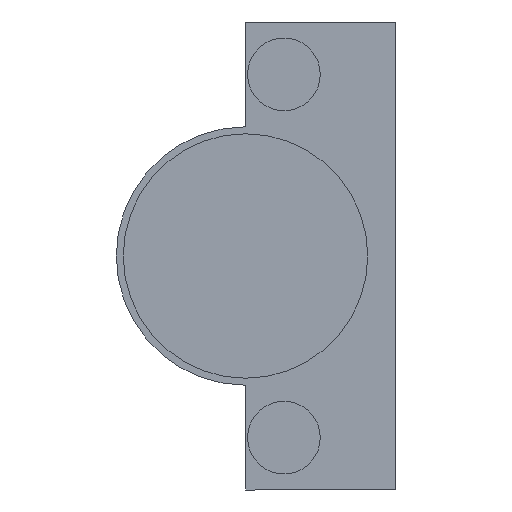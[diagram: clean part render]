
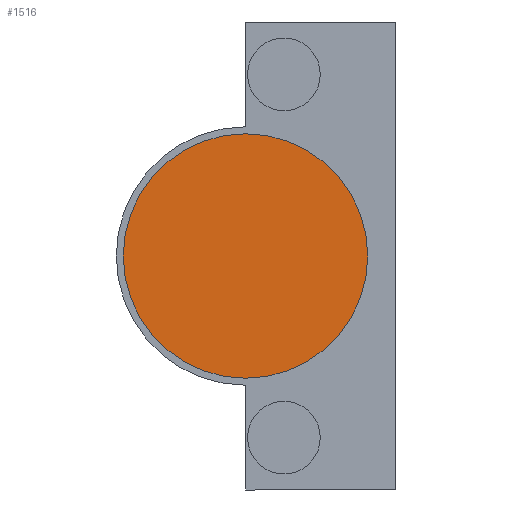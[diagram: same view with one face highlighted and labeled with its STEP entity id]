
A CAD part, front view. The second image highlights one B-rep face of the part: STEP entity #1516.
In plain terms, the highlighted planar face has unit normal (0, -1, 0).
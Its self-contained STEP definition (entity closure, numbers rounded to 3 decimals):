
#34 = VERTEX_POINT ( 'NONE', #990 ) ;
#60 = EDGE_CURVE ( 'NONE', #156, #34, #1008, .T. ) ;
#126 = DIRECTION ( 'NONE',  ( 0., -1., 0. ) ) ;
#156 = VERTEX_POINT ( 'NONE', #1422 ) ;
#271 = DIRECTION ( 'NONE',  ( 0., -1., 0. ) ) ;
#412 = AXIS2_PLACEMENT_3D ( 'NONE', #610, #271, #1518 ) ;
#495 = DIRECTION ( 'NONE',  ( 1., 0., 0. ) ) ;
#512 = DIRECTION ( 'NONE',  ( 1., 0., 0. ) ) ;
#610 = CARTESIAN_POINT ( 'NONE',  ( 5.5, -51.1, 0. ) ) ;
#628 = CIRCLE ( 'NONE', #1184, 17.5 ) ;
#751 = PLANE ( 'NONE',  #1125 ) ;
#859 = FACE_OUTER_BOUND ( 'NONE', #875, .T. ) ;
#875 = EDGE_LOOP ( 'NONE', ( #1564, #1408 ) ) ;
#990 = CARTESIAN_POINT ( 'NONE',  ( -12., -51.1, 0. ) ) ;
#998 = DIRECTION ( 'NONE',  ( 0., -1., 0. ) ) ;
#1008 = CIRCLE ( 'NONE', #412, 17.5 ) ;
#1125 = AXIS2_PLACEMENT_3D ( 'NONE', #1512, #998, #495 ) ;
#1131 = CARTESIAN_POINT ( 'NONE',  ( 5.5, -51.1, 0. ) ) ;
#1184 = AXIS2_PLACEMENT_3D ( 'NONE', #1131, #126, #512 ) ;
#1408 = ORIENTED_EDGE ( 'NONE', *, *, #60, .T. ) ;
#1422 = CARTESIAN_POINT ( 'NONE',  ( 23., -51.1, 0. ) ) ;
#1512 = CARTESIAN_POINT ( 'NONE',  ( 5.5, -51.1, 0. ) ) ;
#1516 = ADVANCED_FACE ( 'NONE', ( #859 ), #751, .T. ) ;
#1518 = DIRECTION ( 'NONE',  ( 1., 0., 0. ) ) ;
#1528 = EDGE_CURVE ( 'NONE', #34, #156, #628, .T. ) ;
#1564 = ORIENTED_EDGE ( 'NONE', *, *, #1528, .T. ) ;
